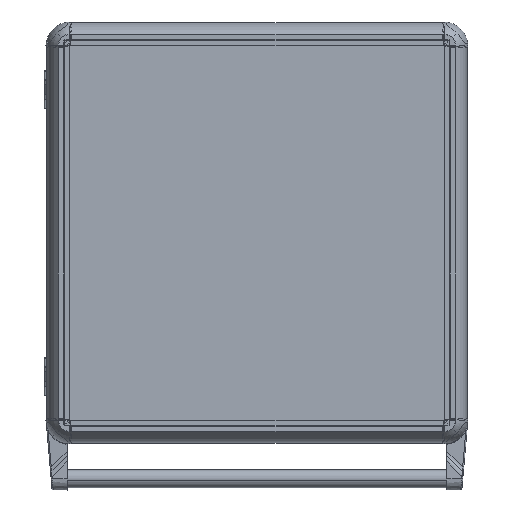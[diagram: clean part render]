
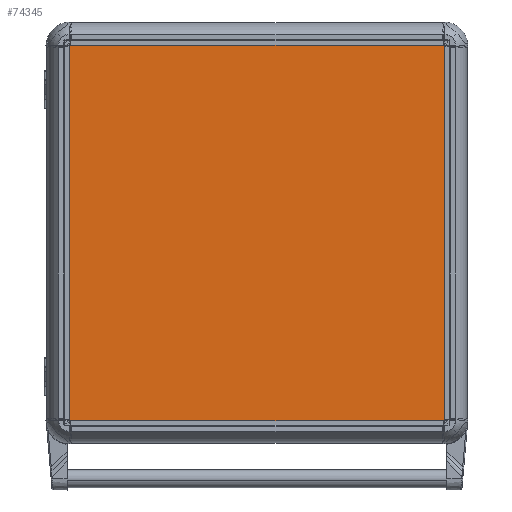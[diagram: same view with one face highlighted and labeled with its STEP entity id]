
A CAD part, top view. The second image highlights one B-rep face of the part: STEP entity #74345.
In plain terms, the highlighted planar face has unit normal (0, 0, 1).
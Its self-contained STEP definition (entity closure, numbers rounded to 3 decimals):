
#2574 = VERTEX_POINT ( 'NONE', #198796 ) ;
#7323 = ORIENTED_EDGE ( 'NONE', *, *, #42049, .T. ) ;
#7855 = DIRECTION ( 'NONE',  ( 0., -1., 0. ) ) ;
#12929 = ORIENTED_EDGE ( 'NONE', *, *, #22185, .T. ) ;
#22185 = EDGE_CURVE ( 'NONE', #59162, #135514, #157509, .T. ) ;
#33024 = ORIENTED_EDGE ( 'NONE', *, *, #125883, .T. ) ;
#42049 = EDGE_CURVE ( 'NONE', #2574, #59162, #84153, .T. ) ;
#48825 = CARTESIAN_POINT ( 'NONE',  ( -200., 200., 2. ) ) ;
#52901 = EDGE_LOOP ( 'NONE', ( #7323, #12929, #116728, #33024 ) ) ;
#59162 = VERTEX_POINT ( 'NONE', #198308 ) ;
#67996 = DIRECTION ( 'NONE',  ( 0., 0., 1. ) ) ;
#74345 = ADVANCED_FACE ( 'NONE', ( #168324 ), #137510, .T. ) ;
#75103 = CARTESIAN_POINT ( 'NONE',  ( -200., 200., 2. ) ) ;
#75441 = CARTESIAN_POINT ( 'NONE',  ( -200., 200., 2. ) ) ;
#80915 = VECTOR ( 'NONE', #131987, 1000. ) ;
#82887 = CARTESIAN_POINT ( 'NONE',  ( 0., 0., 2. ) ) ;
#84153 = LINE ( 'NONE', #97840, #84379 ) ;
#84379 = VECTOR ( 'NONE', #203965, 1000. ) ;
#95563 = CARTESIAN_POINT ( 'NONE',  ( -200., -200., 2. ) ) ;
#97763 = LINE ( 'NONE', #95563, #80915 ) ;
#97840 = CARTESIAN_POINT ( 'NONE',  ( 200., 200., 2. ) ) ;
#116728 = ORIENTED_EDGE ( 'NONE', *, *, #125962, .T. ) ;
#125883 = EDGE_CURVE ( 'NONE', #129311, #2574, #97763, .T. ) ;
#125962 = EDGE_CURVE ( 'NONE', #135514, #129311, #163940, .T. ) ;
#129311 = VERTEX_POINT ( 'NONE', #204952 ) ;
#129712 = AXIS2_PLACEMENT_3D ( 'NONE', #82887, #67996, #170582 ) ;
#131987 = DIRECTION ( 'NONE',  ( 1., 0., 0. ) ) ;
#135514 = VERTEX_POINT ( 'NONE', #48825 ) ;
#137510 = PLANE ( 'NONE',  #129712 ) ;
#142919 = VECTOR ( 'NONE', #160884, 1000. ) ;
#157509 = LINE ( 'NONE', #75441, #142919 ) ;
#160884 = DIRECTION ( 'NONE',  ( -1., 0., 0. ) ) ;
#163940 = LINE ( 'NONE', #75103, #182968 ) ;
#168324 = FACE_OUTER_BOUND ( 'NONE', #52901, .T. ) ;
#170582 = DIRECTION ( 'NONE',  ( 1., 0., 0. ) ) ;
#182968 = VECTOR ( 'NONE', #7855, 1000. ) ;
#198308 = CARTESIAN_POINT ( 'NONE',  ( 200., 200., 2. ) ) ;
#198796 = CARTESIAN_POINT ( 'NONE',  ( 200., -200., 2. ) ) ;
#203965 = DIRECTION ( 'NONE',  ( 0., 1., 0. ) ) ;
#204952 = CARTESIAN_POINT ( 'NONE',  ( -200., -200., 2. ) ) ;
